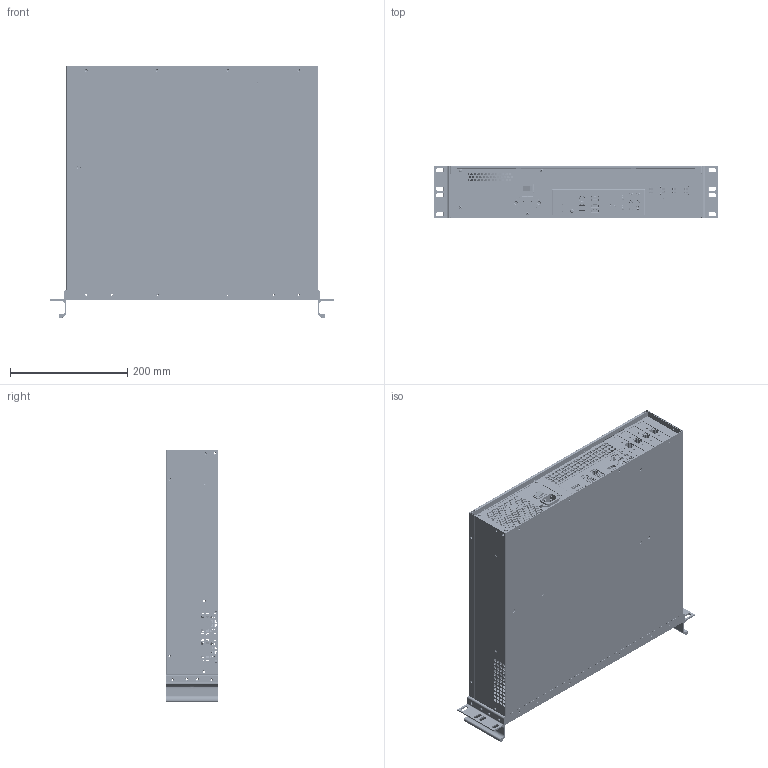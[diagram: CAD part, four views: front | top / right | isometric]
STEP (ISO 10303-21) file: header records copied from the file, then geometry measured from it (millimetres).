
FILE_DESCRIPTION (( 'STEP AP214' ), '1' );
FILE_NAME ('鼫謼歑 IS-R-300.STEP', '2024-09-22T10:07:55', ( '' ), ( '' ), 'SwSTEP 2.0', 'SolidWorks 2024', '' );
FILE_SCHEMA (( 'AUTOMOTIVE_DESIGN' ));
Length unit declared in the file: millimetre
Products named in the file (57): JAF3331-51G3.STEP; Крышка; Cover v1.0 - ATX Power Supply.IGS; USB Type-A  & Type-C .step; Casq.IGS; ATX Power Supply v1.0.IGS; Box v1.0 - ATX Power Supply.IGS; IEC Plug.IGS; USB Type A contacts.step; MSI-B550M-Mortar-WiFi-IO-Shield.step; Grelha Prot Vent 120.IGS; JAF3331-51G3-outter shield.STEP; MSI B550M Mortar WiFi I_O Shield.step; SMA Jack Bulkhead small nut; JAF3331-51G3ports.STEP; Панель USB; Switch on-off.IGS; PCIe Brakets_PCIE card IO panel lowprofil.step-1; 92000A114_Passivated 18-8 Stainless Steel Pan Head Phillips Screws.step-2; molex_0471510001.stp-1; JAF3331-51G3-all pins.STEP; 40x40x 20 cooler v4; JAF3331-51G3-back part.STEP; MSI-B550M-Mortar-WiFi-IO-Shield; JAF3331-51G3; сервер IS-R-300; molex_0471510001.stp-2; Foam Backing.step; Ryjgrf; Outer shell 01.step; AS1166 PCIex sata x4; USB 3 (3).step; eBom-FreeParts.step; PCIe_x4_LowProfile.step-1; USB 3 (4).step; HeatSink.step-1; UB11123-HFD1-4F.stp-1; POF ASM.STEP; JFM38U1B-B3V9-4F.stp-1; RJ45 v1 v2.step-1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
Assembly tree (71 placements, depth 6):
  сервер IS-R-300
    Панель задняя
    Панель передняя
    Платформа
    Крышка
    40x40x 20 cooler v4
    Панель USB
    Фланец  x2
    ATX Power Supply v1.0
      ATX Power Supply v1.0.IGS
        Box v1.0 - ATX Power Supply.IGS
        Cover v1.0 - ATX Power Supply.IGS
        Grelha Prot Vent 120.IGS
        IEC Plug.IGS
        Switch on-off.IGS
        Ventax 119x119x26.IGS
        Casq.IGS
    MSI-B550M-Mortar-WiFi-IO-Shield
      MSI-B550M-Mortar-WiFi-IO-Shield.step
        MSI B550M Mortar WiFi I_O Shield.step
          Shield.step
          Foam Backing.step
        eBom-FreeParts.step
      Сборка14^gigabyte b360n wifi
        molex_0471510001.stp-1
        molex_0471510001.stp-2
        кожух hdmi.stp-1
      UB11123-HFD1-4F.stp-1
      JFM38U1B-B3V9-4F.stp-1
      JAF3331-51G3
        JAF3331-51G3.STEP
          JAF3331-51G3-back part.STEP
          POF ASM.STEP
          JAF3331-51G3-all pins.STEP
          JAF3331-51G3-FRONT SUPPRT.STEP
          JAF3331-51G3ports.STEP
          JAF3331-51G3-outter shield.STEP
      USB Type-A  & Type-C
        USB Type-A  & Type-C .step
          USB Type A contacts.step
            USB 3 (3).step  x4
            USB 3 (4).step  x5
          Outer shell 01.step
          Outer shell 02.step
          Back Pins.step
          Type C inner.step
          Inner Plastic.step
      SMA Jack Bulkhead small nut  x2
      Ryjgrf
    pan head cross recess screw_iso_ISO 7045 - M3 x 6 - Z - 6N  x4
    AS1166 PCIex sata x4  x4
      PCIe_x4_LowProfile.step-1
      92000A114_Passivated 18-8 Stainless Steel Pan Head Phillips Screws.step-1
      92000A114_Passivated 18-8 Stainless Steel Pan Head Phillips Screws.step-2
      HeatSink.step-1
      PCIe Brakets_PCIE card IO panel lowprofil.step-1
      RJ45 v1 v2.step-1
Bounding box: 485.72 x 88 x 431.35 mm (x, y, z)
Volume: 839973.1 mm3; surface area: 1517813.2 mm2
Topology: 380 solids, 417 shells, 29221 faces, 80691 edges, 52210 vertices
Faces by surface type: plane 18848, cylinder 5418, bspline 4226, cone 366, torus 315, sphere 48
Entity records: 1029626 total; most frequent: CARTESIAN_POINT 266494, ORIENTED_EDGE 144476, DIRECTION 108205, EDGE_CURVE 72259, LINE 48935, VECTOR 48935, VERTEX_POINT 46805, AXIS2_PLACEMENT_3D 29635
